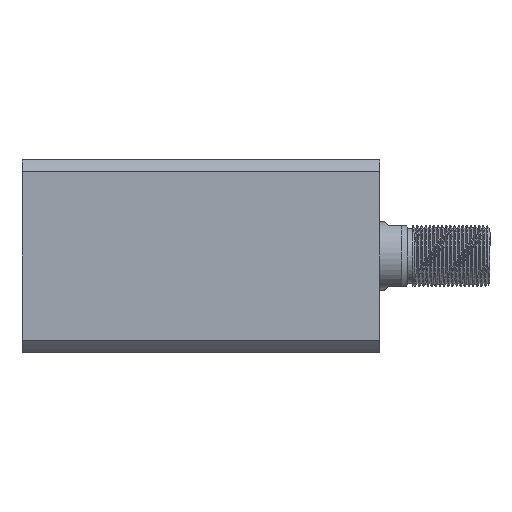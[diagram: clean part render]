
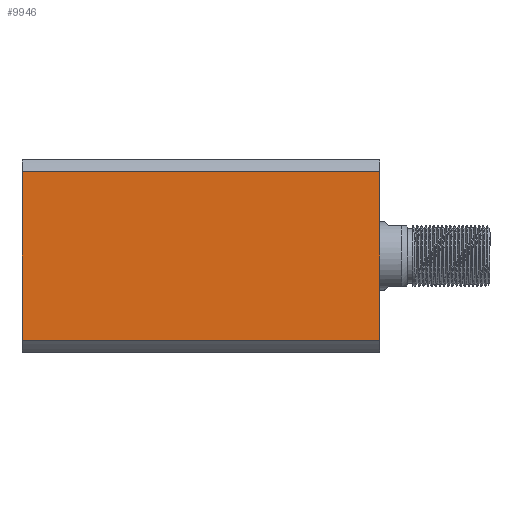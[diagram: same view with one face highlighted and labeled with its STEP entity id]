
A CAD part, left-side view. The second image highlights one B-rep face of the part: STEP entity #9946.
In plain terms, the highlighted planar face has unit normal (-1, 0, 0) as drawn and (1, 0, 0) by its records, which use the part's own axes.
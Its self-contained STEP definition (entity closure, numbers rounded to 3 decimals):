
#423 = VECTOR ( 'NONE', #3408, 1000. ) ;
#886 = ORIENTED_EDGE ( 'NONE', *, *, #2372, .T. ) ;
#1466 = LINE ( 'NONE', #11137, #9883 ) ;
#2216 = CARTESIAN_POINT ( 'NONE',  ( 35., -30.615, 130. ) ) ;
#2372 = EDGE_CURVE ( 'NONE', #4516, #6185, #8976, .T. ) ;
#2811 = PLANE ( 'NONE',  #5451 ) ;
#2857 = CARTESIAN_POINT ( 'NONE',  ( 35., 35., 130. ) ) ;
#3408 = DIRECTION ( 'NONE',  ( 0., 0., -1. ) ) ;
#3597 = CARTESIAN_POINT ( 'NONE',  ( 35., 30.615, 0. ) ) ;
#3603 = LINE ( 'NONE', #10774, #423 ) ;
#3867 = CARTESIAN_POINT ( 'NONE',  ( 35., -30.615, 300. ) ) ;
#3909 = DIRECTION ( 'NONE',  ( -1., 0., 0. ) ) ;
#4152 = CARTESIAN_POINT ( 'NONE',  ( 35., -30.615, 0. ) ) ;
#4516 = VERTEX_POINT ( 'NONE', #4152 ) ;
#4586 = ORIENTED_EDGE ( 'NONE', *, *, #12588, .F. ) ;
#4611 = VERTEX_POINT ( 'NONE', #2216 ) ;
#4781 = CARTESIAN_POINT ( 'NONE',  ( 35., 30.615, 130. ) ) ;
#4825 = DIRECTION ( 'NONE',  ( 0., 1., 0. ) ) ;
#4853 = DIRECTION ( 'NONE',  ( 0., 1., 0. ) ) ;
#5451 = AXIS2_PLACEMENT_3D ( 'NONE', #2857, #3909, #11282 ) ;
#5743 = CARTESIAN_POINT ( 'NONE',  ( 35., 35., 0. ) ) ;
#6185 = VERTEX_POINT ( 'NONE', #3597 ) ;
#6285 = EDGE_CURVE ( 'NONE', #4611, #13254, #1466, .T. ) ;
#6559 = VECTOR ( 'NONE', #10180, 1000. ) ;
#6718 = EDGE_LOOP ( 'NONE', ( #4586, #13505, #11140, #886 ) ) ;
#7238 = LINE ( 'NONE', #3867, #6559 ) ;
#8318 = VECTOR ( 'NONE', #4853, 1000. ) ;
#8976 = LINE ( 'NONE', #5743, #8318 ) ;
#9883 = VECTOR ( 'NONE', #4825, 1000. ) ;
#9946 = ADVANCED_FACE ( 'NONE', ( #13724 ), #2811, .F. ) ;
#10180 = DIRECTION ( 'NONE',  ( 0., 0., 1. ) ) ;
#10774 = CARTESIAN_POINT ( 'NONE',  ( 35., 30.615, 300. ) ) ;
#11137 = CARTESIAN_POINT ( 'NONE',  ( 35., 35., 130. ) ) ;
#11140 = ORIENTED_EDGE ( 'NONE', *, *, #13569, .F. ) ;
#11282 = DIRECTION ( 'NONE',  ( 0., -1., 0. ) ) ;
#12588 = EDGE_CURVE ( 'NONE', #13254, #6185, #3603, .T. ) ;
#13254 = VERTEX_POINT ( 'NONE', #4781 ) ;
#13505 = ORIENTED_EDGE ( 'NONE', *, *, #6285, .F. ) ;
#13569 = EDGE_CURVE ( 'NONE', #4516, #4611, #7238, .T. ) ;
#13724 = FACE_OUTER_BOUND ( 'NONE', #6718, .T. ) ;
